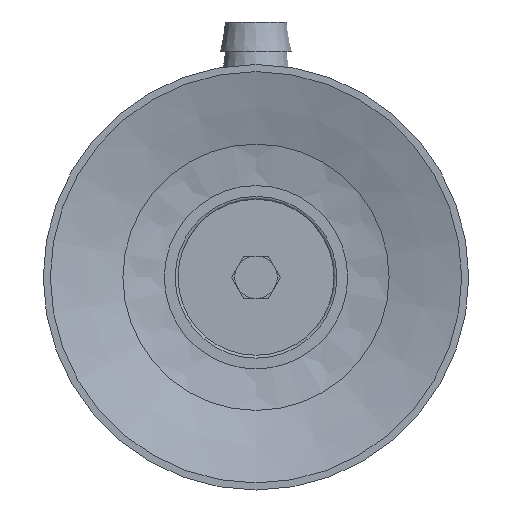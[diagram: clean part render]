
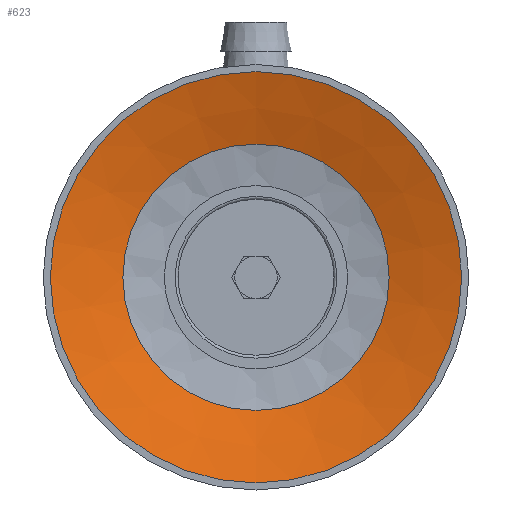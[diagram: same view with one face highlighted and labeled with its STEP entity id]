
A CAD part, front view. The second image highlights one B-rep face of the part: STEP entity #623.
In plain terms, the highlighted conical face has half-angle 73 degrees and reference radius 7.958 mm.
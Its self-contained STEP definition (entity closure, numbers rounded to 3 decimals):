
#623=ADVANCED_FACE('',(#917,#918),#919,.F.);
#917=FACE_BOUND('',#1264,.T.);
#918=FACE_OUTER_BOUND('',#1265,.T.);
#919=CONICAL_SURFACE('',#1266,7.958,1.274);
#1264=EDGE_LOOP('',(#2130));
#1265=EDGE_LOOP('',(#2131));
#1266=AXIS2_PLACEMENT_3D('',#2132,#2133,#2134);
#2130=ORIENTED_EDGE('',*,*,#2509,.T.);
#2131=ORIENTED_EDGE('',*,*,#2510,.T.);
#2132=CARTESIAN_POINT('',(0.0,9.363,0.0));
#2133=DIRECTION('',(-0.0,-1.0,0.));
#2134=DIRECTION('',(0.0,0.,-1.0));
#2509=EDGE_CURVE('',#2901,#2901,#2902,.T.);
#2510=EDGE_CURVE('',#2903,#2903,#2904,.T.);
#2901=VERTEX_POINT('',#3800);
#2902=CIRCLE('',#3801,9.388);
#2903=VERTEX_POINT('',#3802);
#2904=CIRCLE('',#3803,14.5);
#3800=CARTESIAN_POINT('',(0.0,8.926,-9.388));
#3801=AXIS2_PLACEMENT_3D('',#4209,#4210,#4211);
#3802=CARTESIAN_POINT('',(0.0,7.363,-14.5));
#3803=AXIS2_PLACEMENT_3D('',#4212,#4213,#4214);
#4209=CARTESIAN_POINT('',(0.0,8.926,0.0));
#4210=DIRECTION('',(0.0,1.0,0.));
#4211=DIRECTION('',(0.0,0.,-1.0));
#4212=CARTESIAN_POINT('',(0.0,7.363,0.0));
#4213=DIRECTION('',(0.0,-1.0,0.));
#4214=DIRECTION('',(0.0,0.,-1.0));
